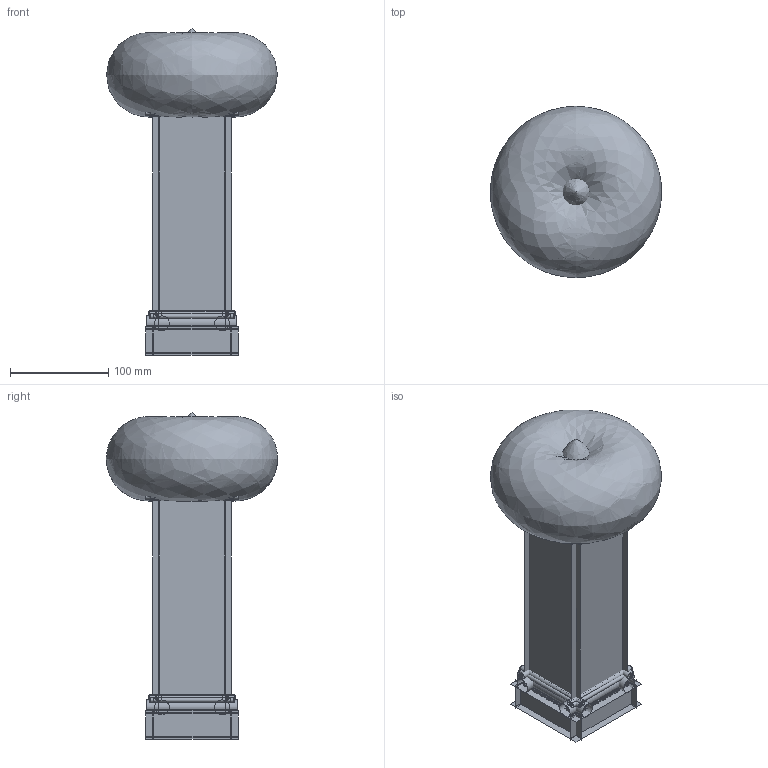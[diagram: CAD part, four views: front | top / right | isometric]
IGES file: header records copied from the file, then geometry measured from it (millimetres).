
Global section: file name: C:\Users\utente\Desktop\3d sito\PEDESTAL VASE NO. 3\PEDESTAL VASE NO 3.igs; native system: Rhinoceros ( Mar  9 2011 ); preprocessor: Trout Lake IGES 012 Mar  9 2011; date: 170523.135516; units: millimetre
Bounding box: 174.53 x 174.61 x 332.83 mm (x, y, z)
Surface area: 546836.9 mm2 (no closed solid volume)
Topology: 0 solids, 0 shells, 162 faces, 472 edges, 332 vertices
Faces by surface type: bspline 162
